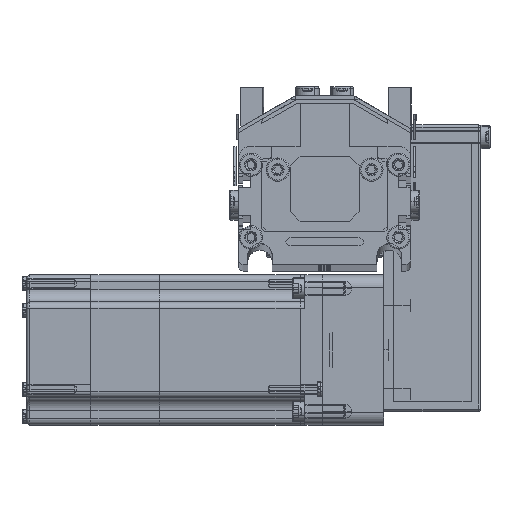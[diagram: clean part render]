
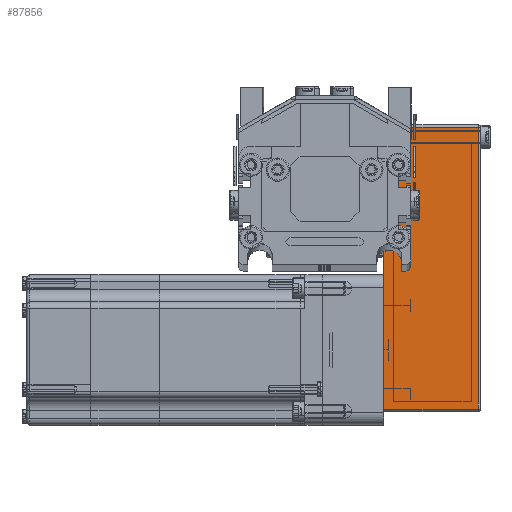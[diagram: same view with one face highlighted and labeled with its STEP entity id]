
A CAD part, top view. The second image highlights one B-rep face of the part: STEP entity #87856.
In plain terms, the highlighted planar face has unit normal (0, 0, 1) as drawn and (0, -1, 0) by its records, which use the part's own axes.
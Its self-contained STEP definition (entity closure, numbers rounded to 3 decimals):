
#32473 = CARTESIAN_POINT ( 'NONE',  ( 65.5, -25., 38.5 ) ) ;
#32475 = CARTESIAN_POINT ( 'NONE',  ( 65.5, -25., 0. ) ) ;
#32489 = CARTESIAN_POINT ( 'NONE',  ( -49., -25., 0. ) ) ;
#32490 = CARTESIAN_POINT ( 'NONE',  ( -50., -25., 0. ) ) ;
#32492 = LINE ( 'NONE', #32490, #32592 ) ;
#32558 = DIRECTION ( 'NONE',  ( 0., 0., -1. ) ) ;
#32559 = VECTOR ( 'NONE', #32558, 1000. ) ;
#32561 = CARTESIAN_POINT ( 'NONE',  ( -49., -25., 39.5 ) ) ;
#32562 = LINE ( 'NONE', #32561, #32559 ) ;
#32576 = DIRECTION ( 'NONE',  ( 0., 0., 1. ) ) ;
#32577 = DIRECTION ( 'NONE',  ( 0., 1., 0. ) ) ;
#32578 = CARTESIAN_POINT ( 'NONE',  ( -50., -25., 39.5 ) ) ;
#32579 = AXIS2_PLACEMENT_3D ( 'NONE', #32578, #32577, #32576 ) ;
#32591 = DIRECTION ( 'NONE',  ( 1., 0., 0. ) ) ;
#32592 = VECTOR ( 'NONE', #32591, 1000. ) ;
#32594 = FACE_OUTER_BOUND ( 'NONE', #87951, .T. ) ;
#32601 = PLANE ( 'NONE',  #32579 ) ;
#32602 = CARTESIAN_POINT ( 'NONE',  ( -49., -25., 38.5 ) ) ;
#32979 = DIRECTION ( 'NONE',  ( -1., 0., 0. ) ) ;
#32980 = VECTOR ( 'NONE', #32979, 1000. ) ;
#32981 = CARTESIAN_POINT ( 'NONE',  ( -50., -25., 38.5 ) ) ;
#32996 = LINE ( 'NONE', #32981, #32980 ) ;
#33003 = CARTESIAN_POINT ( 'NONE',  ( 65.5, -25., 39.5 ) ) ;
#33005 = LINE ( 'NONE', #33003, #33148 ) ;
#33146 = DIRECTION ( 'NONE',  ( 0., 0., 1. ) ) ;
#33148 = VECTOR ( 'NONE', #33146, 1000. ) ;
#87832 = VERTEX_POINT ( 'NONE', #32489 ) ;
#87835 = VERTEX_POINT ( 'NONE', #32475 ) ;
#87840 = EDGE_CURVE ( 'NONE', #87832, #87835, #32492, .T. ) ;
#87851 = VERTEX_POINT ( 'NONE', #32473 ) ;
#87853 = VERTEX_POINT ( 'NONE', #32602 ) ;
#87856 = ADVANCED_FACE ( 'NONE', ( #32594 ), #32601, .F. ) ;
#87865 = EDGE_CURVE ( 'NONE', #87853, #87832, #32562, .T. ) ;
#87916 = ORIENTED_EDGE ( 'NONE', *, *, #87933, .T. ) ;
#87933 = EDGE_CURVE ( 'NONE', #87851, #87853, #32996, .T. ) ;
#87951 = EDGE_LOOP ( 'NONE', ( #87916, #88006, #87992, #88013 ) ) ;
#87954 = EDGE_CURVE ( 'NONE', #87835, #87851, #33005, .T. ) ;
#87992 = ORIENTED_EDGE ( 'NONE', *, *, #87840, .T. ) ;
#88006 = ORIENTED_EDGE ( 'NONE', *, *, #87865, .T. ) ;
#88013 = ORIENTED_EDGE ( 'NONE', *, *, #87954, .T. ) ;
